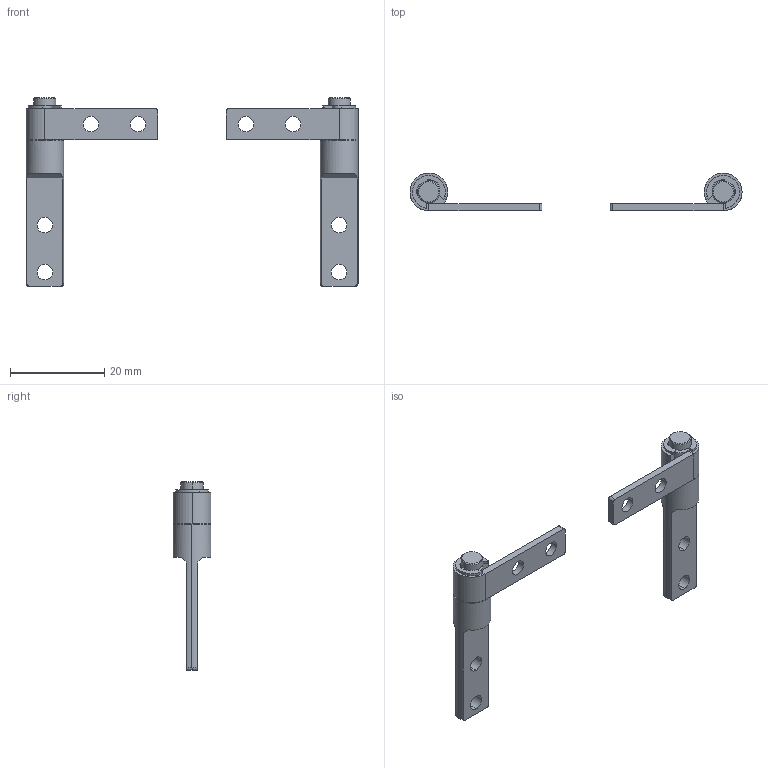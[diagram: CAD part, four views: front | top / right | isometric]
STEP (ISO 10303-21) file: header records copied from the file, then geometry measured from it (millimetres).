
FILE_DESCRIPTION (( 'STEP AP203' ), '1' );
FILE_NAME ('XG11-029.STEP', '2023-12-04T08:37:52', ( '' ), ( '' ), 'SwSTEP 2.0', 'SolidWorks 2020', '' );
FILE_SCHEMA (( 'CONFIG_CONTROL_DESIGN' ));
Length unit declared in the file: millimetre
Products named in the file (4): XG11-029; ASLDPRT; 噩砃ASLDPRT; 3縐銅
Assembly tree (4 placements, depth 2):
  XG11-029
    ASLDPRT
    3縐銅  x2
    噩砃ASLDPRT
Bounding box: 70.52 x 8 x 40.05 mm (x, y, z)
Volume: 2648.2 mm3; surface area: 3370.5 mm2
Topology: 8 solids, 8 shells, 130 faces, 316 edges, 206 vertices
Faces by surface type: cylinder 64, plane 56, torus 6, cone 4
Entity records: 3852 total; most frequent: CARTESIAN_POINT 637, DIRECTION 632, ORIENTED_EDGE 548, EDGE_CURVE 274, AXIS2_PLACEMENT_3D 253, VERTEX_POINT 178, EDGE_LOOP 134, CIRCLE 132
